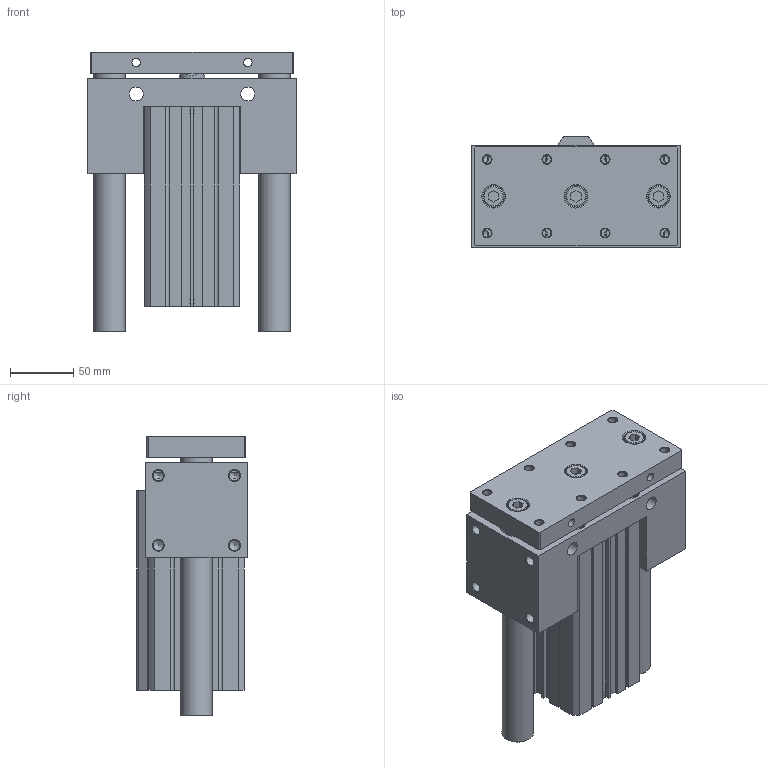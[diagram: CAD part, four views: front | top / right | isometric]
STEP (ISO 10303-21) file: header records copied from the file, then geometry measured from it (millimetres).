
FILE_DESCRIPTION((''),'2;1');
FILE_NAME('I:\3D電子目錄\氣缸\JCB\JCB\JCB63\JCB63x125.stp','2007-09-01T15:27:52',('Administrator'),(''),'Autodesk Inventor 11','Autodesk Inventor 11','');
FILE_SCHEMA(('AUTOMOTIVE_DESIGN { 1 0 10303 214 1 1 1 1 }'));
Length unit declared in the file: millimetre
Products named in the file (1): JCB63
Bounding box: 164 x 87 x 220.5 mm (x, y, z)
Volume: 1772520.9 mm3; surface area: 254690.9 mm2
Topology: 3 solids, 5 shells, 343 faces, 829 edges, 538 vertices
Faces by surface type: plane 186, cylinder 62, cone 47, bspline 40, torus 8
Full cylindrical faces by diameter (mm): 3 x2, 6.8 x4, 8.376 x4, 11 x8, 13 x4, 14 x4, 16 x3, 17.5 x3, 20 x1, 21 x1, 25 x2, 28 x2, 40 x1, 47 x1, 65 x4, 68 x2
Entity records: 10008 total; most frequent: CARTESIAN_POINT 2670, DIRECTION 1474, ORIENTED_EDGE 1320, EDGE_CURVE 660, EDGE_LOOP 554, AXIS2_PLACEMENT_3D 532, VERTEX_POINT 498, VECTOR 410
